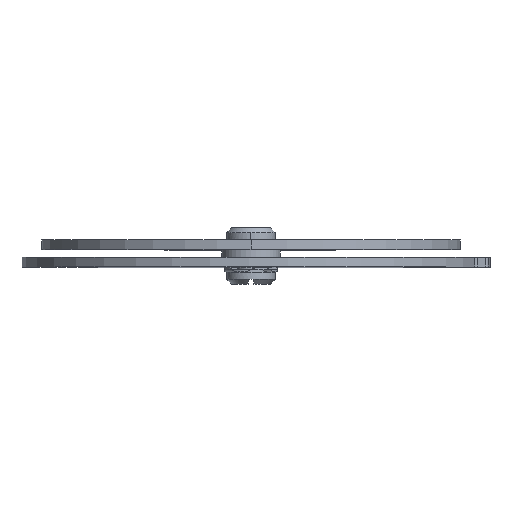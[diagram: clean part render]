
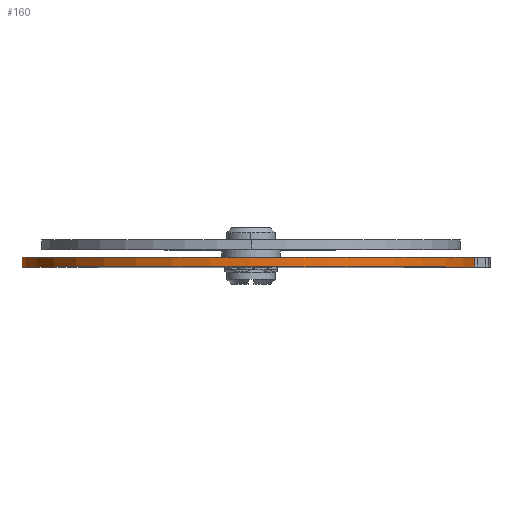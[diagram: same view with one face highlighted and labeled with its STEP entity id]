
A CAD part, top view. The second image highlights one B-rep face of the part: STEP entity #160.
In plain terms, the highlighted cylindrical face has radius 47 mm (diameter 94 mm), a partial arc.
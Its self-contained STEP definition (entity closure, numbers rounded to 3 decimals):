
#7 = CYLINDRICAL_SURFACE ( 'NONE', #748, 47. ) ;
#19 = ORIENTED_EDGE ( 'NONE', *, *, #1762, .F. ) ;
#49 = VERTEX_POINT ( 'NONE', #1505 ) ;
#160 = ADVANCED_FACE ( 'NONE', ( #3092 ), #7, .T. ) ;
#456 = AXIS2_PLACEMENT_3D ( 'NONE', #3324, #1922, #1640 ) ;
#492 = DIRECTION ( 'NONE',  ( 0., 0., 1. ) ) ;
#570 = VERTEX_POINT ( 'NONE', #994 ) ;
#655 = CARTESIAN_POINT ( 'NONE',  ( -44.579, 0., -14.889 ) ) ;
#671 = CARTESIAN_POINT ( 'NONE',  ( -44.579, 2., -14.889 ) ) ;
#741 = ORIENTED_EDGE ( 'NONE', *, *, #2922, .T. ) ;
#748 = AXIS2_PLACEMENT_3D ( 'NONE', #3227, #1286, #1834 ) ;
#862 = VERTEX_POINT ( 'NONE', #1394 ) ;
#941 = VECTOR ( 'NONE', #1471, 1000. ) ;
#994 = CARTESIAN_POINT ( 'NONE',  ( 45.947, 2., 9.895 ) ) ;
#1286 = DIRECTION ( 'NONE',  ( 0., -1., 0. ) ) ;
#1394 = CARTESIAN_POINT ( 'NONE',  ( -44.579, 2., -14.889 ) ) ;
#1471 = DIRECTION ( 'NONE',  ( 0., 1., 0. ) ) ;
#1505 = CARTESIAN_POINT ( 'NONE',  ( 45.947, 0., 9.895 ) ) ;
#1603 = DIRECTION ( 'NONE',  ( 0., 1., 0. ) ) ;
#1611 = ORIENTED_EDGE ( 'NONE', *, *, #2461, .T. ) ;
#1640 = DIRECTION ( 'NONE',  ( 0., 0., 1. ) ) ;
#1762 = EDGE_CURVE ( 'NONE', #862, #570, #2837, .T. ) ;
#1834 = DIRECTION ( 'NONE',  ( 0., 0., -1. ) ) ;
#1922 = DIRECTION ( 'NONE',  ( 0., 1., 0. ) ) ;
#1938 = VECTOR ( 'NONE', #2907, 1000. ) ;
#2109 = EDGE_LOOP ( 'NONE', ( #741, #1611, #19, #2301 ) ) ;
#2301 = ORIENTED_EDGE ( 'NONE', *, *, #2953, .T. ) ;
#2414 = CARTESIAN_POINT ( 'NONE',  ( 0., 0., 0. ) ) ;
#2461 = EDGE_CURVE ( 'NONE', #49, #570, #2652, .T. ) ;
#2480 = LINE ( 'NONE', #671, #1938 ) ;
#2577 = CIRCLE ( 'NONE', #3547, 47. ) ;
#2652 = LINE ( 'NONE', #3426, #941 ) ;
#2837 = CIRCLE ( 'NONE', #456, 47. ) ;
#2907 = DIRECTION ( 'NONE',  ( 0., -1., 0. ) ) ;
#2922 = EDGE_CURVE ( 'NONE', #3329, #49, #2577, .T. ) ;
#2953 = EDGE_CURVE ( 'NONE', #862, #3329, #2480, .T. ) ;
#3092 = FACE_OUTER_BOUND ( 'NONE', #2109, .T. ) ;
#3227 = CARTESIAN_POINT ( 'NONE',  ( 0., 2., 0. ) ) ;
#3324 = CARTESIAN_POINT ( 'NONE',  ( 0., 2., 0. ) ) ;
#3329 = VERTEX_POINT ( 'NONE', #655 ) ;
#3426 = CARTESIAN_POINT ( 'NONE',  ( 45.947, 2., 9.895 ) ) ;
#3547 = AXIS2_PLACEMENT_3D ( 'NONE', #2414, #1603, #492 ) ;
